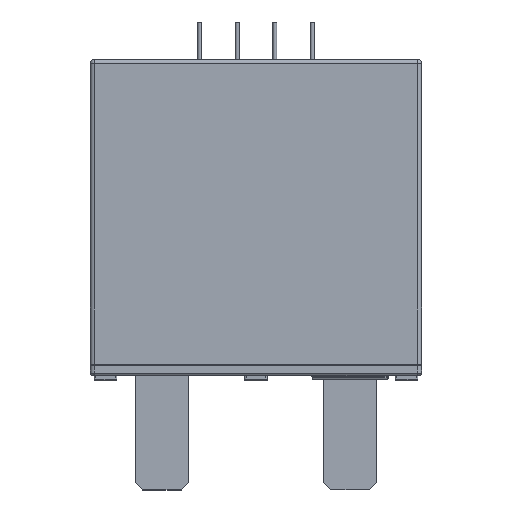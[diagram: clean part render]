
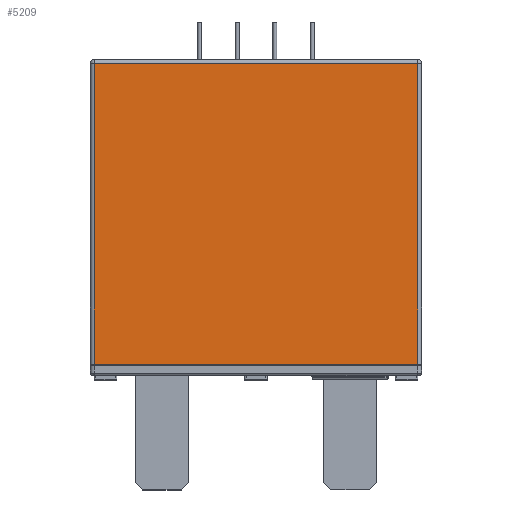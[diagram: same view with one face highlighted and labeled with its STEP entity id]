
A CAD part, top view. The second image highlights one B-rep face of the part: STEP entity #5209.
In plain terms, the highlighted planar face has unit normal (0, 0, 1).
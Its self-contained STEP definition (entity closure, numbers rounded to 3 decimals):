
#83=DIRECTION('',(1.,0.,0.));
#84=VECTOR('',#83,43.);
#85=CARTESIAN_POINT('',(-21.5,1.5,8.25));
#86=LINE('',#85,#84);
#330=DIRECTION('',(1.,0.,0.));
#331=VECTOR('',#330,43.);
#332=CARTESIAN_POINT('',(-21.5,41.5,8.25));
#333=LINE('',#332,#331);
#337=DIRECTION('',(0.,1.,0.));
#338=VECTOR('',#337,40.);
#339=CARTESIAN_POINT('',(-21.5,1.5,8.25));
#340=LINE('',#339,#338);
#368=DIRECTION('',(0.,1.,0.));
#369=VECTOR('',#368,40.);
#370=CARTESIAN_POINT('',(21.5,1.5,8.25));
#371=LINE('',#370,#369);
#4752=CARTESIAN_POINT('',(-21.5,1.5,8.25));
#4753=VERTEX_POINT('',#4752);
#4754=CARTESIAN_POINT('',(21.5,1.5,8.25));
#4755=VERTEX_POINT('',#4754);
#4886=CARTESIAN_POINT('',(-21.5,41.5,8.25));
#4887=VERTEX_POINT('',#4886);
#4890=CARTESIAN_POINT('',(21.5,41.5,8.25));
#4891=VERTEX_POINT('',#4890);
#5196=CARTESIAN_POINT('',(-21.5,1.5,8.25));
#5197=DIRECTION('',(0.,0.,1.));
#5198=DIRECTION('',(1.,0.,0.));
#5199=AXIS2_PLACEMENT_3D('',#5196,#5197,#5198);
#5200=PLANE('',#5199);
#5202=ORIENTED_EDGE('',*,*,#5201,.T.);
#5204=ORIENTED_EDGE('',*,*,#5203,.F.);
#5205=ORIENTED_EDGE('',*,*,#4990,.F.);
#5206=ORIENTED_EDGE('',*,*,#5188,.T.);
#5207=EDGE_LOOP('',(#5202,#5204,#5205,#5206));
#5208=FACE_OUTER_BOUND('',#5207,.F.);
#5209=ADVANCED_FACE('',(#5208),#5200,.T.);
#4990=EDGE_CURVE('',#4753,#4755,#86,.T.);
#5188=EDGE_CURVE('',#4753,#4887,#340,.T.);
#5201=EDGE_CURVE('',#4887,#4891,#333,.T.);
#5203=EDGE_CURVE('',#4755,#4891,#371,.T.);
